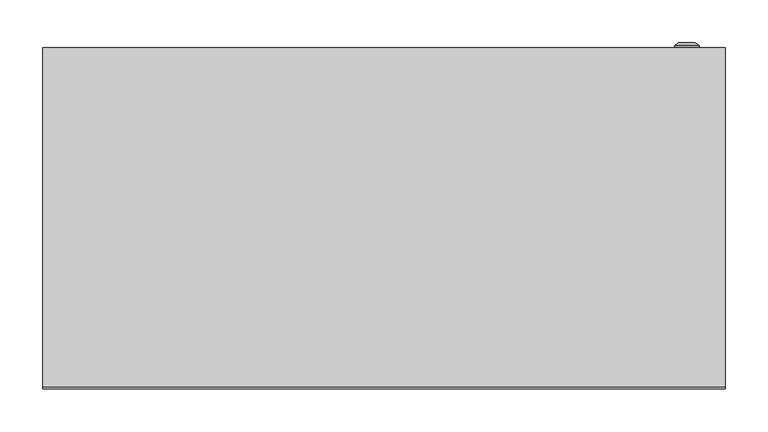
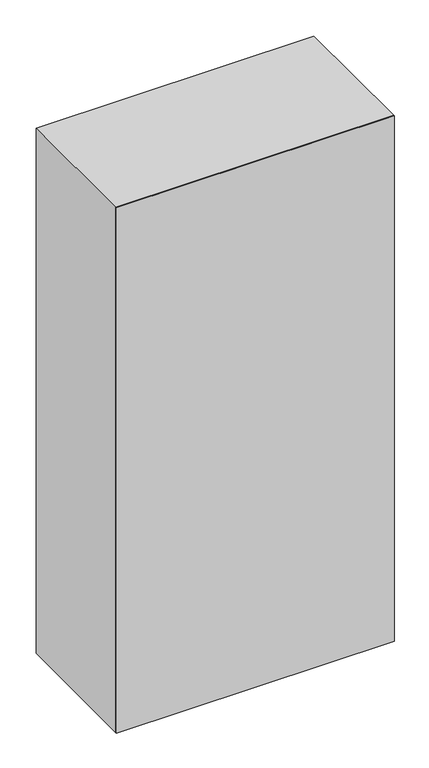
"""IFC4 building model written with IfcOpenShell, lengths in millimetres: proxy geometry, ЩМП : ЩМП-16.8.4-0_1600х800х400."""

import ifcopenshell
import ifcopenshell.guid

model = None  # the IFC model being written
_history = None  # IfcOwnerHistory: only IFC2X3 demands one
_inside = {}  # id of a spatial element -> (the spatial element, [elements in it])
_under = {}  # id of a project, library or spatial element -> (it, [spatial elements below it])
_declared = {}  # id of a project -> (the project, [libraries it declares])
_typed = {}  # id of a type object -> (the type object, [elements of that type])
_made_of = {}  # id of a material, layer set ... -> (it, [elements and type objects made of it])


def new_model(schema):
    """Start an empty IFC model of exactly this schema.

    Asked for "IFC4X3", IfcOpenShell would pick the latest addendum, in which some entities
    have other attributes; the version numbers below select the first issue.
    IFC2X3 requires an IfcOwnerHistory on every rooted entity: one is made here for all.
    """
    global model, _history
    if schema == "IFC4X3":
        model = ifcopenshell.file(schema_version=(4, 3, 0, 0))
    else:
        model = ifcopenshell.file(schema=schema)
    _inside.clear()
    _under.clear()
    _declared.clear()
    _typed.clear()
    _made_of.clear()
    _history = None
    if model.schema == "IFC2X3":
        org = make("IfcOrganization", Name="unknown")
        user = make(
            "IfcPersonAndOrganization",
            ThePerson=make("IfcPerson", FamilyName="unknown"),
            TheOrganization=org,
        )
        app = make(
            "IfcApplication",
            ApplicationDeveloper=org,
            Version="unknown",
            ApplicationFullName="unknown",
            ApplicationIdentifier="unknown",
        )
        _history = make(
            "IfcOwnerHistory",
            OwningUser=user,
            OwningApplication=app,
            ChangeAction="ADDED",
            CreationDate=0,
        )
    return model


def make(cls, **values):
    """One entity of the class cls with the attributes given. An attribute that is None is left unset."""
    return model.create_entity(
        cls, **{name: value for name, value in values.items() if value is not None}
    )


def rooted(cls, **values):
    """An entity with a GlobalId (a new one), such as an element, a storey or a relation."""
    return make(cls, GlobalId=ifcopenshell.guid.new(), OwnerHistory=_history, **values)


def si_unit(unit_type, name, prefix=None):
    """IfcSIUnit, for example si_unit("LENGTHUNIT", "METRE", prefix="MILLI")."""
    return make("IfcSIUnit", UnitType=unit_type, Prefix=prefix, Name=name)


def assignment(units):
    """IfcUnitAssignment: the units of a project."""
    return None if units is None else make("IfcUnitAssignment", Units=units)


def point(xyz):
    """IfcCartesianPoint."""
    return None if xyz is None else make("IfcCartesianPoint", Coordinates=xyz)


def direction(xyz):
    """IfcDirection."""
    return None if xyz is None else make("IfcDirection", DirectionRatios=xyz)


def frame(location, z_axis=None, x_axis=None):
    """IfcAxis2Placement3D, a coordinate frame: its origin and axes. An axis left out is left unset."""
    return make(
        "IfcAxis2Placement3D",
        Location=point(location),
        Axis=direction(z_axis),
        RefDirection=direction(x_axis),
    )


def origin():
    """The frame at (0, 0, 0) with its axes left unset."""
    return frame((0.0, 0.0, 0.0))


def origin_with_axes():
    """The frame at (0, 0, 0) with the z axis (0, 0, 1) and the x axis (1, 0, 0) written out."""
    return frame((0.0, 0.0, 0.0), z_axis=(0.0, 0.0, 1.0), x_axis=(1.0, 0.0, 0.0))


def place(relative_to, where):
    """IfcLocalPlacement: puts the frame where relative to a parent placement (None: the world)."""
    return make(
        "IfcLocalPlacement", PlacementRelTo=relative_to, RelativePlacement=where
    )


def context(
    kind, dimensions, precision=None, world=None, true_north=None, identifier=None
):
    """IfcGeometricRepresentationContext, for example the 3D "Model" context."""
    return make(
        "IfcGeometricRepresentationContext",
        ContextIdentifier=identifier,
        ContextType=kind,
        CoordinateSpaceDimension=dimensions,
        Precision=precision,
        WorldCoordinateSystem=world,
        TrueNorth=true_north,
    )


def project(units=None, contexts=None):
    """IfcProject with its units and contexts."""
    return rooted(
        "IfcProject",
        Name="project",
        RepresentationContexts=contexts,
        UnitsInContext=assignment(units),
    )


def spatial(cls, under=None, at=None, **own):
    """A site, building, storey or space (cls), placed at a placement, below another one or the project."""
    s = rooted(cls, ObjectPlacement=at, **own)
    if under is not None:
        _under.setdefault(under.id(), (under, []))[1].append(s)
    return s


def polyline(points):
    """IfcPolyline through the points."""
    return make("IfcPolyline", Points=[point(p) for p in points])


def circle_curve(where, radius):
    """IfcCircle in the frame where."""
    return make("IfcCircle", Position=where, Radius=radius)


def outline(outer, holes=None, kind="AREA"):
    """IfcArbitraryClosedProfileDef: a profile drawn as a closed curve; with holes, ...WithVoids."""
    if holes is None:
        return make("IfcArbitraryClosedProfileDef", ProfileType=kind, OuterCurve=outer)
    return make(
        "IfcArbitraryProfileDefWithVoids",
        ProfileType=kind,
        OuterCurve=outer,
        InnerCurves=holes,
    )


def extrude(swept, where, along, depth):
    """IfcExtrudedAreaSolid: the profile swept, set in the frame where, extruded along a direction by depth."""
    return make(
        "IfcExtrudedAreaSolid",
        SweptArea=swept,
        Position=where,
        ExtrudedDirection=direction(along),
        Depth=depth,
    )


def shape(context_of_items, identifier, shape_type, items):
    """IfcShapeRepresentation: the items that make up one representation, for example the "Body"."""
    return make(
        "IfcShapeRepresentation",
        ContextOfItems=context_of_items,
        RepresentationIdentifier=identifier,
        RepresentationType=shape_type,
        Items=items,
    )


def source(mapping_origin, context_of_items, identifier, shape_type, items):
    """IfcRepresentationMap: a shape defined once, which mapped items show again and again."""
    return make(
        "IfcRepresentationMap",
        MappingOrigin=mapping_origin,
        MappedRepresentation=shape(context_of_items, identifier, shape_type, items),
    )


def transform(
    local_origin,
    x_axis=None,
    y_axis=None,
    z_axis=None,
    scale=None,
    scale2=None,
    scale3=None,
    uniform=True,
):
    """IfcCartesianTransformationOperator3D, or its non-uniform kind. x_axis, y_axis, z_axis: its Axis1, 2, 3."""
    if uniform:
        return make(
            "IfcCartesianTransformationOperator3D",
            Axis1=direction(x_axis),
            Axis2=direction(y_axis),
            LocalOrigin=point(local_origin),
            Scale=scale,
            Axis3=direction(z_axis),
        )
    return make(
        "IfcCartesianTransformationOperator3DnonUniform",
        Axis1=direction(x_axis),
        Axis2=direction(y_axis),
        LocalOrigin=point(local_origin),
        Scale=scale,
        Axis3=direction(z_axis),
        Scale2=scale2,
        Scale3=scale3,
    )


def mapped(mapping_source, mapping_target):
    """IfcMappedItem: shows the shape of a source again, moved by a transform."""
    return make(
        "IfcMappedItem", MappingSource=mapping_source, MappingTarget=mapping_target
    )


def made_of(thing, what):
    """Note that an element or type object is made of a material, layer set ...; save() writes the relation."""
    if what is not None:
        _made_of.setdefault(what.id(), (what, []))[1].append(thing)
    return thing


def element(
    cls,
    number,
    at=None,
    inside=None,
    cuts=None,
    type_object=None,
    material=None,
    context=None,
    identifier="Body",
    shape_type=None,
    held_by="IfcProductDefinitionShape",
    body=None,
    shapes=None,
    **own,
):
    """One element of the class cls, such as IfcWall. Its Tag is "e" and its number.

    at: its placement. inside: the storey or other place that contains it. cuts: it is an
    opening in that element (IfcRelVoidsElement). A single representation is given by context,
    identifier, shape_type and body (its items); several are given by shapes. held_by: the class
    of the entity that holds the representations. save() writes the other relations.
    """
    e = rooted(cls, Tag="e%d" % number, ObjectPlacement=at, **own)
    if body is not None:
        shapes = [shape(context, identifier, shape_type, body)]
    if shapes is not None:
        e.Representation = make(held_by, Representations=shapes)
    if inside is not None:
        _inside.setdefault(inside.id(), (inside, []))[1].append(e)
    if cuts is not None:
        rooted(
            "IfcRelVoidsElement", RelatingBuildingElement=cuts, RelatedOpeningElement=e
        )
    if type_object is not None:
        _typed.setdefault(type_object.id(), (type_object, []))[1].append(e)
    return made_of(e, material)


def aggregate(whole, parts):
    """IfcRelAggregates: a whole, such as a stair, and the parts it consists of."""
    return rooted("IfcRelAggregates", RelatingObject=whole, RelatedObjects=parts)


def save(model, path):
    """Write the relations noted so far, then the file.

    IfcRelAggregates (storeys below a building ...), IfcRelContainedInSpatialStructure (elements
    in a storey), IfcRelDefinesByType, IfcRelAssociatesMaterial and IfcRelDeclares: one each for
    every whole, place, type object, material and project.
    """
    for whole, parts in _under.values():
        aggregate(whole, parts)
    for where, things in _inside.values():
        rooted(
            "IfcRelContainedInSpatialStructure",
            RelatedElements=things,
            RelatingStructure=where,
        )
    for kind, things in _typed.values():
        rooted("IfcRelDefinesByType", RelatedObjects=things, RelatingType=kind)
    for what, things in _made_of.values():
        rooted("IfcRelAssociatesMaterial", RelatedObjects=things, RelatingMaterial=what)
    for by, libraries in _declared.values():
        rooted("IfcRelDeclares", RelatingContext=by, RelatedDefinitions=libraries)
    model.write(path)


def plane_surface(at):
    """IfcPlane: the flat surface through the origin of the frame at, square to its z axis."""
    return make("IfcPlane", Position=at)


def cylinder_surface(at, radius):
    """IfcCylindricalSurface: all points at the distance radius from the z axis of the frame at."""
    return make("IfcCylindricalSurface", Position=at, Radius=radius)


def revolved_surface(curve, axis_point, axis_direction):
    """IfcSurfaceOfRevolution: the curve turned about the line through axis_point along axis_direction."""
    return make(
        "IfcSurfaceOfRevolution",
        SweptCurve=make("IfcArbitraryOpenProfileDef", ProfileType="CURVE", Curve=curve),
        AxisPosition=make("IfcAxis1Placement", Location=point(axis_point), Axis=direction(axis_direction)),
    )


def advanced_brep(points, edges, surfaces, faces):
    """IfcAdvancedBrep: a solid bounded by faces that lie on surfaces and meet in shared edges.

    An edge is (start, end): straight between two places in points (the first is 0);
    or (start, end, curve); or (start, end, curve, False) where it runs against its curve.
    A face is (place in surfaces, loops), or (place, loops, False) where it looks against
    its surface's normal. A loop lists edges by number (the first is 1), with a minus sign
    where the edge is run from its end to its start. The first loop is the outer one.
    """
    corners = [point(p) for p in points]
    vertices = [make("IfcVertexPoint", VertexGeometry=c) for c in corners]
    made = []
    for start, end, *more in edges:
        made.append(
            make(
                "IfcEdgeCurve",
                EdgeStart=vertices[start],
                EdgeEnd=vertices[end],
                EdgeGeometry=more[0] if more else make("IfcPolyline", Points=[corners[start], corners[end]]),
                SameSense=more[1] if len(more) > 1 else True,
            )
        )
    hull = []
    for where, loops, *sense in faces:
        bounds = []
        for j, loop in enumerate(loops):
            ring = [make("IfcOrientedEdge", EdgeElement=made[abs(k) - 1], Orientation=k > 0) for k in loop]
            bounds.append(
                make(
                    "IfcFaceOuterBound" if j == 0 else "IfcFaceBound",
                    Bound=make("IfcEdgeLoop", EdgeList=ring),
                    Orientation=True,
                )
            )
        hull.append(make("IfcAdvancedFace", Bounds=bounds, FaceSurface=surfaces[where], SameSense=sense[0] if sense else True))
    return make("IfcAdvancedBrep", Outer=make("IfcClosedShell", CfsFaces=hull))


def electrical_equipment_c8e57f9c(model_context):
    return source(origin(), model_context, "Body", "SolidModel", [
        advanced_brep(
        [(340.669873, 400.0, 800.0), (369.330127, 400.0, 800.0), (355.0, 400.0, 800.0), (340.669873, 402.366592, 800.0), (369.330127, 402.366592, 800.0), (345.0, 406.0, 800.0), (365.0, 406.0, 800.0), (353.1080471, 406.0, 800.0), (356.8919529, 406.0, 800.0), (353.1080471, 404.9822294, 800.0), (356.8919529, 404.9822294, 800.0), (355.0, 404.9822294, 800.0)],
        [
            (0, 1, circle_curve(frame((355.0, 400.0, 800.0), z_axis=(0.0, -1.0, 0.0), x_axis=(1.0, 0.0, 0.0)), 14.330127)),
            (1, 2),
            (2, 0),
            (1, 0, circle_curve(frame((355.0, 400.0, 800.0), z_axis=(0.0, -1.0, 0.0), x_axis=(1.0, 0.0, 0.0)), 14.330127)),
            (3, 4, circle_curve(frame((355.0, 402.366592, 800.0), z_axis=(0.0, -1.0, 0.0), x_axis=(1.0, 0.0, 0.0)), 14.330127)),
            (4, 1),
            (0, 3),
            (4, 3, circle_curve(frame((355.0, 402.366592, 800.0), z_axis=(0.0, -1.0, 0.0), x_axis=(1.0, 0.0, 0.0)), 14.330127)),
            (5, 6, circle_curve(frame((355.0, 406.0, 800.0), z_axis=(0.0, -1.0, 0.0), x_axis=(1.0, 0.0, 0.0)), 10.0)),
            (6, 4),
            (3, 5),
            (6, 5, circle_curve(frame((355.0, 406.0, 800.0), z_axis=(0.0, -1.0, 0.0), x_axis=(1.0, 0.0, 0.0)), 10.0)),
            (7, 8, circle_curve(frame((355.0, 406.0, 800.0), z_axis=(0.0, -1.0, 0.0), x_axis=(1.0, 0.0, 0.0)), 1.8919529)),
            (8, 6),
            (5, 7),
            (8, 7, circle_curve(frame((355.0, 406.0, 800.0), z_axis=(0.0, -1.0, 0.0), x_axis=(1.0, 0.0, 0.0)), 1.8919529)),
            (9, 10, circle_curve(frame((355.0, 404.9822294, 800.0), z_axis=(0.0, -1.0, 0.0), x_axis=(1.0, 0.0, 0.0)), 1.8919529)),
            (10, 8),
            (7, 9),
            (10, 9, circle_curve(frame((355.0, 404.9822294, 800.0), z_axis=(0.0, -1.0, 0.0), x_axis=(1.0, 0.0, 0.0)), 1.8919529)),
            (11, 10),
            (9, 11),
        ],
        [
            plane_surface(frame((355.0, 400.0, 800.0), z_axis=(0.0, -1.0, 0.0), x_axis=(1.0, 0.0, 0.0))),
            cylinder_surface(frame((355.0, 413.1348851, 800.0), z_axis=(0.0, 1.0, 0.0), x_axis=(1.0, 0.0, 0.0)), 14.330127),
            revolved_surface(polyline([(369.330127, 402.366592, 800.0), (365.0, 406.0, 800.0)]), (355.0, 413.1348851, 800.0), (0.0, 1.0, 0.0)),
            plane_surface(frame((355.0, 406.0, 800.0), z_axis=(0.0, 1.0, 0.0), x_axis=(1.0, 0.0, 0.0))),
            revolved_surface(polyline([(356.8919529, 406.0, 800.0), (356.8919529, 404.9822294, 800.0)]), (355.0, 413.1348851, 800.0), (0.0, 1.0, 0.0)),
            plane_surface(frame((355.0, 404.9822294, 800.0), z_axis=(0.0, 1.0, 0.0), x_axis=(1.0, 0.0, 0.0))),
        ],
        [
            (0, [[1, 2, 3]]),
            (0, [[4, -3, -2]]),
            (1, [[5, 6, -1, 7]]),
            (1, [[8, -7, -4, -6]]),
            (2, [[9, 10, -5, 11]]),
            (2, [[12, -11, -8, -10]]),
            (3, [[13, 14, -9, 15]]),
            (3, [[16, -15, -12, -14]]),
            (4, [[17, 18, -13, 19]]),
            (4, [[20, -19, -16, -18]]),
            (5, [[21, -17, 22]]),
            (5, [[-22, -20, -21]]),
        ],
    ),
        extrude(outline(polyline([(381.5, 375.0), (-381.5, 375.0), (-381.5, 400.0), (381.5, 400.0), (381.5, 375.0)])), frame((0.0, 0.0, 18.5), z_axis=(0.0, 0.0, 1.0), x_axis=(1.0, 0.0, 0.0)), (0.0, 0.0, 1.0), 1563.0),
        extrude(outline(polyline([(1600.0, -400.0033905), (0.0, -400.0033905), (0.0, 399.9966095), (1600.0, 399.9966095), (1600.0, -400.0033905)]), holes=[polyline([(1565.0, -365.0033905), (1565.0, 364.9966095), (35.0, 364.9966095), (35.0, -365.0033905), (1565.0, -365.0033905)])]), frame((0.0, 2.0, 0.0), z_axis=(0.0, 1.0, 0.0), x_axis=(0.0, 0.0, 1.0)), (0.0, 0.0, 1.0), 398.0),
        extrude(outline(polyline([(400.0, 0.0), (-400.0, 0.0), (-400.0, 2.0), (400.0, 2.0), (400.0, 0.0)])), origin_with_axes(), (0.0, 0.0, 1.0), 1600.0),
    ])


if __name__ == "__main__":
    model = new_model("IFC4")
    model_context = context("Model", 3, world=origin())
    ifc_project = project(units=[si_unit("LENGTHUNIT", "METRE", prefix="MILLI")], contexts=[model_context])
    site = spatial("IfcSite", under=ifc_project)
    building = spatial("IfcBuilding", under=site)
    placement = place(None, origin())
    electrical_equipment_shape = electrical_equipment_c8e57f9c(model_context)
    element("IfcBuildingElementProxy", 1, Name="ЩМП : ЩМП-16.8.4-0_1600х800х400", ObjectType="ЩМП : ЩМП-16.8.4-0_1600х800х400", at=placement, inside=building, context=model_context, shape_type="MappedRepresentation", body=[
        mapped(electrical_equipment_shape, transform((0.0, 0.0, 0.0), x_axis=(1.0, 0.0, 0.0), y_axis=(0.0, 1.0, 0.0), z_axis=(0.0, 0.0, 1.0))),
    ])
    save(model, "model.ifc")
